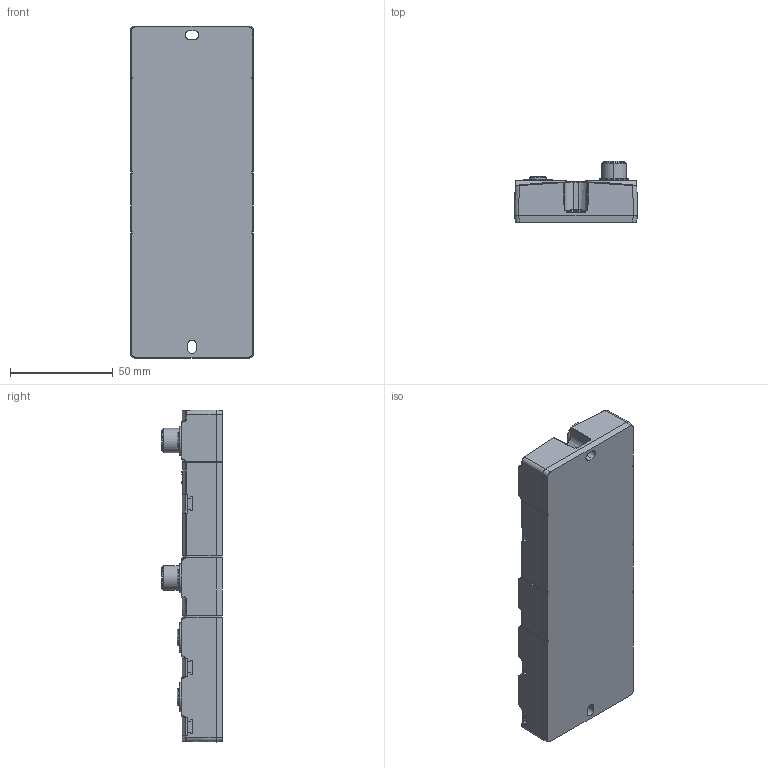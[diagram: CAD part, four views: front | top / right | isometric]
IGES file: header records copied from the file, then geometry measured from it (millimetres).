
Start section:  PTC IGES file: 2008415
Global section: file name: 2008415; native system: Pro/ENGINEER by Parametric Technology Corporation; preprocessor: 2009380; author: smayer; organization: Unknown; date: 20110127.104239; units: millimetre
Bounding box: 59.9 x 29.6 x 161.9 mm (x, y, z)
Surface area: 43871.8 mm2 (no closed solid volume)
Topology: 0 solids, 0 shells, 1340 faces, 6466 edges, 6446 vertices
Faces by surface type: bspline 722, revolution 618
